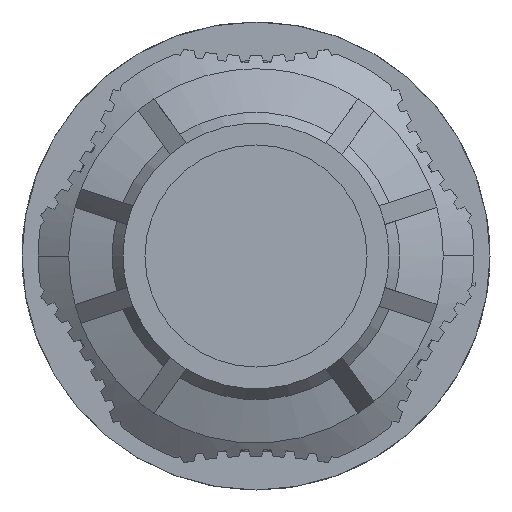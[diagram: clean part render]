
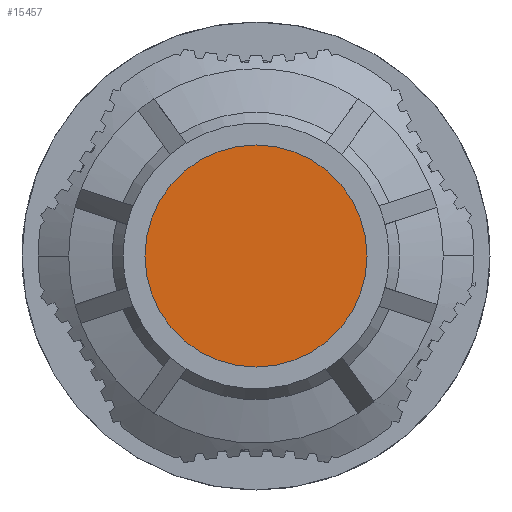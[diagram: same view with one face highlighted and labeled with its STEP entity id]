
A CAD part, front view. The second image highlights one B-rep face of the part: STEP entity #15457.
In plain terms, the highlighted planar face has unit normal (0, -1, 0).
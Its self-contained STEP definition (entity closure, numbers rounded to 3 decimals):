
#5519=CARTESIAN_POINT('',(0.,-36.762,0.));
#5520=DIRECTION('',(0.,1.,0.));
#5521=DIRECTION('',(-1.,0.,0.));
#5522=AXIS2_PLACEMENT_3D('',#5519,#5520,#5521);
#5524=CARTESIAN_POINT('',(0.,-36.762,0.));
#5525=DIRECTION('',(0.,1.,0.));
#5526=DIRECTION('',(1.,0.,0.));
#5527=AXIS2_PLACEMENT_3D('',#5524,#5525,#5526);
#10308=CARTESIAN_POINT('',(-5.513,-36.762,0.));
#10309=CARTESIAN_POINT('',(5.513,-36.762,0.));
#10310=VERTEX_POINT('',#10308);
#10311=VERTEX_POINT('',#10309);
#15447=CARTESIAN_POINT('',(0.,-36.762,0.));
#15448=DIRECTION('',(0.,1.,0.));
#15449=DIRECTION('',(0.,0.,1.));
#15450=AXIS2_PLACEMENT_3D('',#15447,#15448,#15449);
#15451=PLANE('',#15450);
#15452=ORIENTED_EDGE('',*,*,#15437,.T.);
#15454=ORIENTED_EDGE('',*,*,#15453,.T.);
#15455=EDGE_LOOP('',(#15452,#15454));
#15456=FACE_OUTER_BOUND('',#15455,.F.);
#15457=ADVANCED_FACE('',(#15456),#15451,.F.);
#5523=CIRCLE('',#5522,5.513);
#5528=CIRCLE('',#5527,5.513);
#15437=EDGE_CURVE('',#10310,#10311,#5523,.T.);
#15453=EDGE_CURVE('',#10311,#10310,#5528,.T.);
